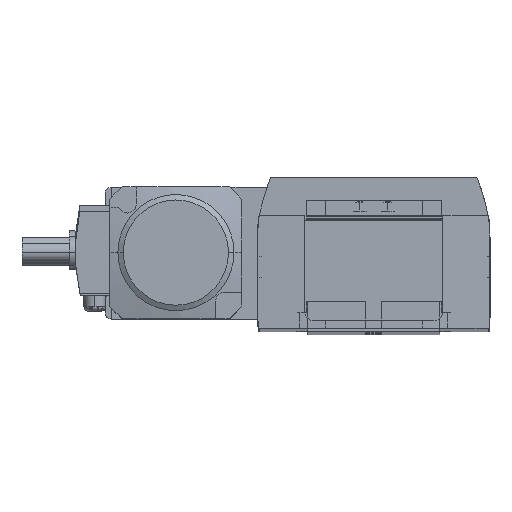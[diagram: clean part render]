
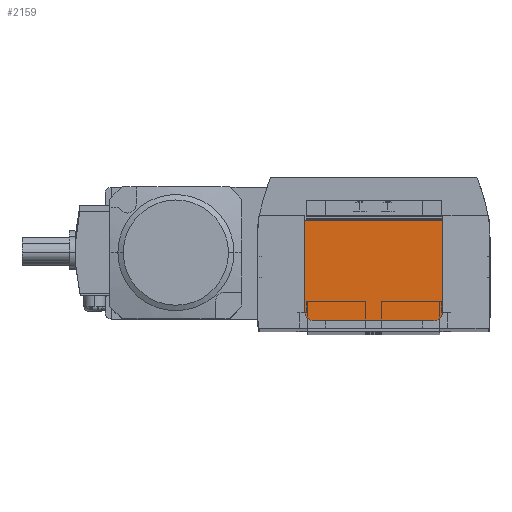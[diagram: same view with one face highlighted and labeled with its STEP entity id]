
A CAD part, top view. The second image highlights one B-rep face of the part: STEP entity #2159.
In plain terms, the highlighted planar face has unit normal (0, 0, 1).
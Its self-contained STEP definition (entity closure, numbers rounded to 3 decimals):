
#35 = CARTESIAN_POINT ( 'NONE',  ( -22., -22.6, 618.7 ) ) ;
#74 = VERTEX_POINT ( 'NONE', #6974 ) ;
#293 = CARTESIAN_POINT ( 'NONE',  ( -19., -19.6, 618.7 ) ) ;
#641 = CARTESIAN_POINT ( 'NONE',  ( -19., -22.6, 618.7 ) ) ;
#715 = ORIENTED_EDGE ( 'NONE', *, *, #16292, .T. ) ;
#1059 = ORIENTED_EDGE ( 'NONE', *, *, #22906, .T. ) ;
#1989 = VECTOR ( 'NONE', #23129, 1000. ) ;
#2159 = ADVANCED_FACE ( 'NONE', ( #18287 ), #19001, .T. ) ;
#2168 = CARTESIAN_POINT ( 'NONE',  ( -22., -22.6, 618.7 ) ) ;
#2229 = EDGE_CURVE ( 'NONE', #11117, #5541, #16043, .T. ) ;
#2438 = DIRECTION ( 'NONE',  ( 1., 0., 0. ) ) ;
#2592 = CARTESIAN_POINT ( 'NONE',  ( 22., 9.4, 618.7 ) ) ;
#3596 = LINE ( 'NONE', #35, #24762 ) ;
#4262 = DIRECTION ( 'NONE',  ( 1., 0., 0. ) ) ;
#4381 = LINE ( 'NONE', #2592, #26003 ) ;
#5297 = VERTEX_POINT ( 'NONE', #27236 ) ;
#5541 = VERTEX_POINT ( 'NONE', #641 ) ;
#6090 = ORIENTED_EDGE ( 'NONE', *, *, #18398, .T. ) ;
#6974 = CARTESIAN_POINT ( 'NONE',  ( 22., -19.6, 618.7 ) ) ;
#7313 = DIRECTION ( 'NONE',  ( 0., 0., 1. ) ) ;
#8533 = ORIENTED_EDGE ( 'NONE', *, *, #26059, .F. ) ;
#8734 = CARTESIAN_POINT ( 'NONE',  ( -22., 9.4, 618.7 ) ) ;
#10301 = CIRCLE ( 'NONE', #15739, 3. ) ;
#10887 = CARTESIAN_POINT ( 'NONE',  ( -22., -19.6, 618.7 ) ) ;
#11117 = VERTEX_POINT ( 'NONE', #10887 ) ;
#12056 = CARTESIAN_POINT ( 'NONE',  ( 19., -22.6, 618.7 ) ) ;
#13119 = AXIS2_PLACEMENT_3D ( 'NONE', #2168, #16930, #4262 ) ;
#14281 = VECTOR ( 'NONE', #19618, 1000. ) ;
#15079 = DIRECTION ( 'NONE',  ( 0., 0., 1. ) ) ;
#15349 = CARTESIAN_POINT ( 'NONE',  ( 22., 11., 618.7 ) ) ;
#15739 = AXIS2_PLACEMENT_3D ( 'NONE', #20005, #7313, #22148 ) ;
#16034 = EDGE_LOOP ( 'NONE', ( #715, #6090, #26478, #8533, #1059, #19181 ) ) ;
#16043 = CIRCLE ( 'NONE', #17366, 3. ) ;
#16292 = EDGE_CURVE ( 'NONE', #5541, #24686, #3596, .T. ) ;
#16930 = DIRECTION ( 'NONE',  ( 0., 0., 1. ) ) ;
#17366 = AXIS2_PLACEMENT_3D ( 'NONE', #293, #15079, #2438 ) ;
#17376 = DIRECTION ( 'NONE',  ( 1., 0., 0. ) ) ;
#18287 = FACE_OUTER_BOUND ( 'NONE', #16034, .T. ) ;
#18398 = EDGE_CURVE ( 'NONE', #24686, #74, #10301, .T. ) ;
#19001 = PLANE ( 'NONE',  #13119 ) ;
#19100 = DIRECTION ( 'NONE',  ( 1., 0., 0. ) ) ;
#19181 = ORIENTED_EDGE ( 'NONE', *, *, #2229, .T. ) ;
#19618 = DIRECTION ( 'NONE',  ( 0., 1., 0. ) ) ;
#20005 = CARTESIAN_POINT ( 'NONE',  ( 19., -19.6, 618.7 ) ) ;
#20560 = LINE ( 'NONE', #15349, #14281 ) ;
#20991 = CARTESIAN_POINT ( 'NONE',  ( -22., 11., 618.7 ) ) ;
#22148 = DIRECTION ( 'NONE',  ( 1., 0., 0. ) ) ;
#22906 = EDGE_CURVE ( 'NONE', #26707, #11117, #25799, .T. ) ;
#23129 = DIRECTION ( 'NONE',  ( 0., -1., 0. ) ) ;
#24686 = VERTEX_POINT ( 'NONE', #12056 ) ;
#24762 = VECTOR ( 'NONE', #19100, 1000. ) ;
#25610 = EDGE_CURVE ( 'NONE', #74, #5297, #20560, .T. ) ;
#25799 = LINE ( 'NONE', #20991, #1989 ) ;
#26003 = VECTOR ( 'NONE', #17376, 1000. ) ;
#26059 = EDGE_CURVE ( 'NONE', #26707, #5297, #4381, .T. ) ;
#26478 = ORIENTED_EDGE ( 'NONE', *, *, #25610, .T. ) ;
#26707 = VERTEX_POINT ( 'NONE', #8734 ) ;
#27236 = CARTESIAN_POINT ( 'NONE',  ( 22., 9.4, 618.7 ) ) ;
